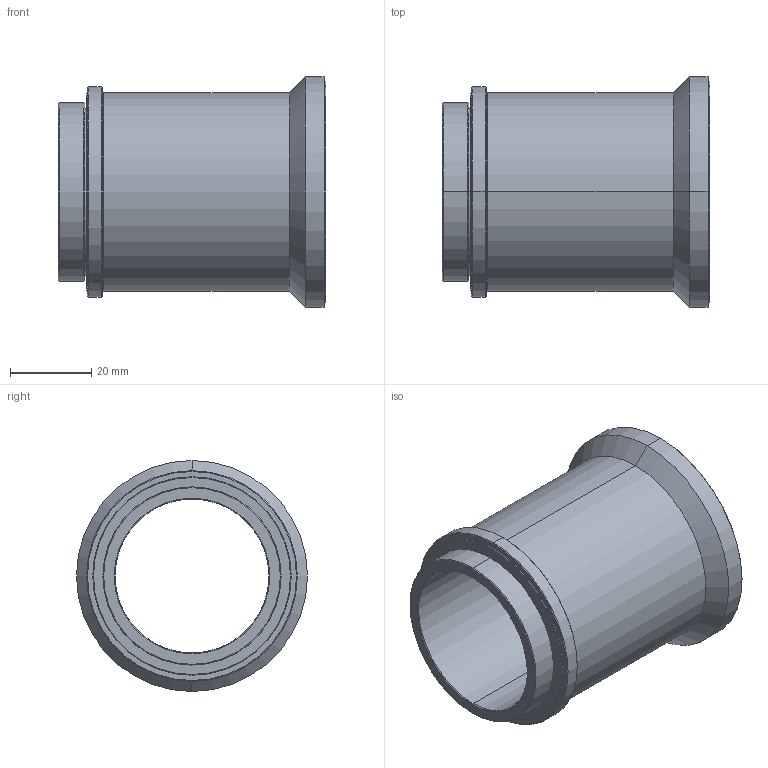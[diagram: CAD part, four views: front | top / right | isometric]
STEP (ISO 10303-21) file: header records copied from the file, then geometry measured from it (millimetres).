
FILE_DESCRIPTION (( 'STEP AP203' ), '1' );
FILE_NAME ('VS-FR44-38V_M52.STEP', '2016-06-08T08:06:18', ( 'miura_vst' ), ( '' ), 'SwSTEP 2.0', 'SolidWorks 2016', '' );
FILE_SCHEMA (( 'CONFIG_CONTROL_DESIGN' ));
Length unit declared in the file: millimetre
Products named in the file (1): VS-FR44-38V_M52
Bounding box: 66 x 57 x 57 mm (x, y, z)
Volume: 49571.9 mm3; surface area: 22482.5 mm2
Topology: 1 solids, 1 shells, 57 faces, 114 edges, 66 vertices
Faces by surface type: cone 30, cylinder 18, plane 9
Entity records: 1555 total; most frequent: DIRECTION 296, CARTESIAN_POINT 238, ORIENTED_EDGE 228, AXIS2_PLACEMENT_3D 124, EDGE_CURVE 114, EDGE_LOOP 66, CIRCLE 66, VERTEX_POINT 66
